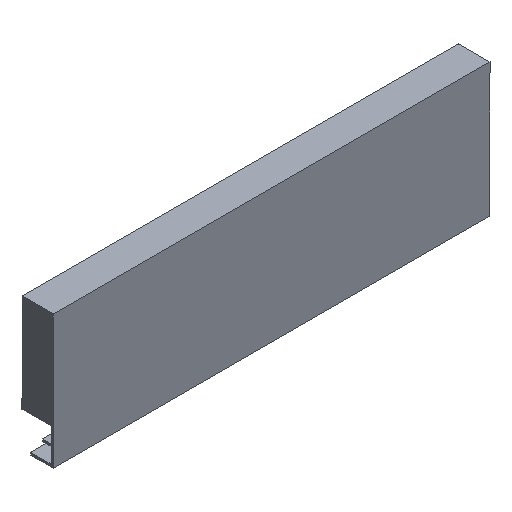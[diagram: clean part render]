
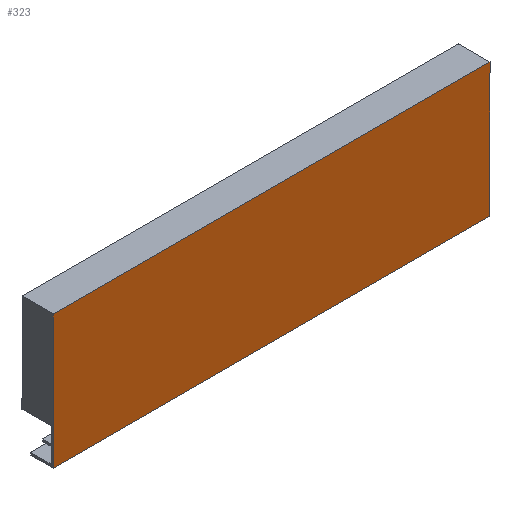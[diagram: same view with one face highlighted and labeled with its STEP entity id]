
A CAD part, isometric view. The second image highlights one B-rep face of the part: STEP entity #323.
In plain terms, the highlighted planar face has unit normal (0, -1, 0).
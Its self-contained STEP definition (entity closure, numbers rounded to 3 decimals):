
#2 = LINE ( 'NONE', #345, #10 ) ;
#10 = VECTOR ( 'NONE', #406, 1000. ) ;
#13 = LINE ( 'NONE', #391, #16 ) ;
#16 = VECTOR ( 'NONE', #409, 1000. ) ;
#127 = EDGE_LOOP ( 'NONE', ( #137, #138, #139, #140 ) ) ;
#137 = ORIENTED_EDGE ( 'NONE', *, *, #264, .T. ) ;
#138 = ORIENTED_EDGE ( 'NONE', *, *, #304, .F. ) ;
#139 = ORIENTED_EDGE ( 'NONE', *, *, #275, .F. ) ;
#140 = ORIENTED_EDGE ( 'NONE', *, *, #298, .T. ) ;
#176 = LINE ( 'NONE', #442, #177 ) ;
#177 = VECTOR ( 'NONE', #443, 1000. ) ;
#180 = LINE ( 'NONE', #447, #181 ) ;
#181 = VECTOR ( 'NONE', #448, 1000. ) ;
#192 = FACE_OUTER_BOUND ( 'NONE', #127, .T. ) ;
#218 = VERTEX_POINT ( 'NONE', #351 ) ;
#219 = VERTEX_POINT ( 'NONE', #338 ) ;
#264 = EDGE_CURVE ( 'NONE', #219, #355, #13, .T. ) ;
#270 = AXIS2_PLACEMENT_3D ( 'NONE', #461, #469, #470 ) ;
#275 = EDGE_CURVE ( 'NONE', #341, #218, #2, .T. ) ;
#298 = EDGE_CURVE ( 'NONE', #341, #219, #176, .T. ) ;
#304 = EDGE_CURVE ( 'NONE', #218, #355, #180, .T. ) ;
#323 = ADVANCED_FACE ( 'NONE', ( #192 ), #446, .F. ) ;
#338 = CARTESIAN_POINT ( 'NONE',  ( 110.5, -5.5, -17.9 ) ) ;
#341 = VERTEX_POINT ( 'NONE', #522 ) ;
#345 = CARTESIAN_POINT ( 'NONE',  ( -110.5, -5.5, -17.9 ) ) ;
#351 = CARTESIAN_POINT ( 'NONE',  ( -110.5, -5.5, 49.7 ) ) ;
#355 = VERTEX_POINT ( 'NONE', #532 ) ;
#391 = CARTESIAN_POINT ( 'NONE',  ( 110.5, -5.5, -17.9 ) ) ;
#406 = DIRECTION ( 'NONE',  ( 0., 0., 1. ) ) ;
#409 = DIRECTION ( 'NONE',  ( 0., 0., 1. ) ) ;
#442 = CARTESIAN_POINT ( 'NONE',  ( -110.5, -5.5, -17.9 ) ) ;
#443 = DIRECTION ( 'NONE',  ( 1., 0., 0. ) ) ;
#446 = PLANE ( 'NONE',  #270 ) ;
#447 = CARTESIAN_POINT ( 'NONE',  ( -110.5, -5.5, 49.7 ) ) ;
#448 = DIRECTION ( 'NONE',  ( 1., 0., 0. ) ) ;
#461 = CARTESIAN_POINT ( 'NONE',  ( -110.5, -5.5, -17.9 ) ) ;
#469 = DIRECTION ( 'NONE',  ( 0., 1., 0. ) ) ;
#470 = DIRECTION ( 'NONE',  ( 0., 0., -1. ) ) ;
#522 = CARTESIAN_POINT ( 'NONE',  ( -110.5, -5.5, -17.9 ) ) ;
#532 = CARTESIAN_POINT ( 'NONE',  ( 110.5, -5.5, 49.7 ) ) ;
